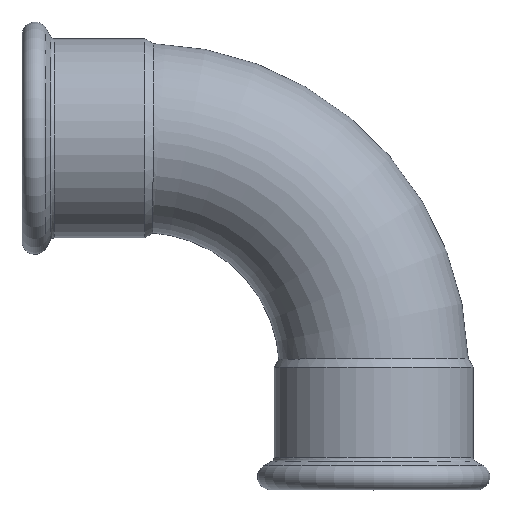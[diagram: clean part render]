
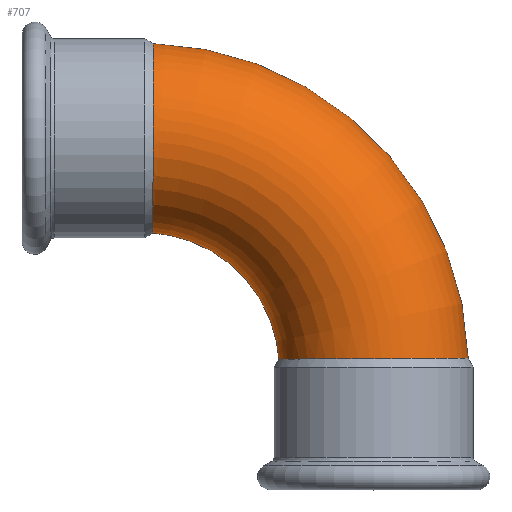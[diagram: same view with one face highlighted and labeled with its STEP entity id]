
A CAD part, top view. The second image highlights one B-rep face of the part: STEP entity #707.
In plain terms, the highlighted toroidal (fillet/blend) face has major radius 108 mm and minor radius 44.45 mm.
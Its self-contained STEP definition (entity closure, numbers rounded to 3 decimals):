
#612=CARTESIAN_POINT('',(0.,-108.0,0.));
#613=DIRECTION('',(0.0,0.0,1.0));
#614=DIRECTION('',(0.725,-0.688,0.0));
#615=AXIS2_PLACEMENT_3D('',#612,#613,#614);
#616=TOROIDAL_SURFACE('',#615,108.0,44.45);
#617=CARTESIAN_POINT('',(4.642,44.379,0.));
#618=VERTEX_POINT('',#617);
#619=CARTESIAN_POINT('',(4.642,44.379,0.));
#620=CARTESIAN_POINT('',(4.642,44.379,-5.765));
#621=CARTESIAN_POINT('',(4.64,43.258,-11.474));
#622=CARTESIAN_POINT('',(4.631,38.928,-22.067));
#623=CARTESIAN_POINT('',(4.624,35.793,-26.863));
#624=CARTESIAN_POINT('',(4.605,27.95,-34.949));
#625=CARTESIAN_POINT('',(4.593,23.339,-38.191));
#626=CARTESIAN_POINT('',(4.565,13.232,-42.764));
#627=CARTESIAN_POINT('',(4.548,7.838,-44.082));
#628=CARTESIAN_POINT('',(4.509,-3.135,-44.683));
#629=CARTESIAN_POINT('',(4.487,-8.619,-43.969));
#630=CARTESIAN_POINT('',(4.438,-19.165,-40.547));
#631=CARTESIAN_POINT('',(4.412,-24.121,-37.827));
#632=CARTESIAN_POINT('',(4.359,-32.976,-30.516));
#633=CARTESIAN_POINT('',(4.333,-36.724,-25.911));
#634=CARTESIAN_POINT('',(4.295,-41.719,-16.437));
#635=CARTESIAN_POINT('',(4.282,-43.261,-11.826));
#636=CARTESIAN_POINT('',(4.272,-44.484,-4.232));
#637=CARTESIAN_POINT('',(4.27,-44.665,-1.37));
#638=CARTESIAN_POINT('',(4.272,-44.463,4.65));
#639=CARTESIAN_POINT('',(4.276,-44.019,7.79));
#640=CARTESIAN_POINT('',(4.294,-41.802,16.576));
#641=CARTESIAN_POINT('',(4.315,-39.234,21.951));
#642=CARTESIAN_POINT('',(4.363,-32.327,31.148));
#643=CARTESIAN_POINT('',(4.389,-28.146,34.953));
#644=CARTESIAN_POINT('',(4.443,-18.347,40.961));
#645=CARTESIAN_POINT('',(4.469,-12.764,43.014));
#646=CARTESIAN_POINT('',(4.517,-1.136,44.824));
#647=CARTESIAN_POINT('',(4.538,4.794,44.57));
#648=CARTESIAN_POINT('',(4.574,16.215,41.769));
#649=CARTESIAN_POINT('',(4.588,21.593,39.25));
#650=CARTESIAN_POINT('',(4.613,31.059,32.264));
#651=CARTESIAN_POINT('',(4.622,35.054,27.864));
#652=CARTESIAN_POINT('',(4.633,40.11,19.414));
#653=CARTESIAN_POINT('',(4.636,41.681,15.755));
#654=CARTESIAN_POINT('',(4.641,43.83,8.051));
#655=CARTESIAN_POINT('',(4.642,44.379,4.035));
#656=CARTESIAN_POINT('',(4.642,44.379,0.));
#657=B_SPLINE_CURVE_WITH_KNOTS('',3,(#619,#620,#621,#622,#623,#624,#625,#626,#627,#628,#629,#630,#631,#632,#633,#634,#635,#636,#637,#638,#639,#640,#641,#642,#643,#644,#645,#646,#647,#648,#649,#650,#651,#652,#653,#654,#655,#656),.UNSPECIFIED.,.T.,.U.,(4,2,2,2,2,2,2,2,2,2,2,2,2,2,2,2,2,2,4),(0.0,1.729,3.433,5.109,6.761,8.406,10.087,11.851,13.3,14.158,15.107,16.876,18.557,20.324,22.088,23.852,25.617,26.806,28.017),.UNSPECIFIED.);
#658=EDGE_CURVE('',#618,#618,#657,.T.);
#659=ORIENTED_EDGE('',*,*,#658,.F.);
#660=EDGE_LOOP('',(#659));
#661=FACE_OUTER_BOUND('',#660,.T.);
#662=CARTESIAN_POINT('',(152.379,-103.358,0.));
#663=VERTEX_POINT('',#662);
#664=CARTESIAN_POINT('',(152.379,-103.358,0.));
#665=CARTESIAN_POINT('',(152.379,-103.358,5.765));
#666=CARTESIAN_POINT('',(151.258,-103.36,11.474));
#667=CARTESIAN_POINT('',(146.928,-103.369,22.067));
#668=CARTESIAN_POINT('',(143.793,-103.376,26.863));
#669=CARTESIAN_POINT('',(135.95,-103.395,34.949));
#670=CARTESIAN_POINT('',(131.339,-103.407,38.191));
#671=CARTESIAN_POINT('',(121.232,-103.435,42.764));
#672=CARTESIAN_POINT('',(115.838,-103.452,44.082));
#673=CARTESIAN_POINT('',(104.865,-103.491,44.683));
#674=CARTESIAN_POINT('',(99.381,-103.513,43.969));
#675=CARTESIAN_POINT('',(88.835,-103.562,40.547));
#676=CARTESIAN_POINT('',(83.879,-103.588,37.827));
#677=CARTESIAN_POINT('',(75.024,-103.641,30.516));
#678=CARTESIAN_POINT('',(71.276,-103.667,25.911));
#679=CARTESIAN_POINT('',(66.281,-103.705,16.437));
#680=CARTESIAN_POINT('',(64.739,-103.718,11.826));
#681=CARTESIAN_POINT('',(63.516,-103.728,4.232));
#682=CARTESIAN_POINT('',(63.335,-103.73,1.37));
#683=CARTESIAN_POINT('',(63.537,-103.728,-4.65));
#684=CARTESIAN_POINT('',(63.981,-103.724,-7.79));
#685=CARTESIAN_POINT('',(66.198,-103.706,-16.576));
#686=CARTESIAN_POINT('',(68.766,-103.685,-21.951));
#687=CARTESIAN_POINT('',(75.673,-103.637,-31.148));
#688=CARTESIAN_POINT('',(79.854,-103.611,-34.953));
#689=CARTESIAN_POINT('',(89.653,-103.557,-40.961));
#690=CARTESIAN_POINT('',(95.236,-103.531,-43.014));
#691=CARTESIAN_POINT('',(106.864,-103.483,-44.824));
#692=CARTESIAN_POINT('',(112.794,-103.462,-44.57));
#693=CARTESIAN_POINT('',(124.215,-103.426,-41.769));
#694=CARTESIAN_POINT('',(129.593,-103.412,-39.25));
#695=CARTESIAN_POINT('',(139.059,-103.387,-32.264));
#696=CARTESIAN_POINT('',(143.054,-103.378,-27.864));
#697=CARTESIAN_POINT('',(148.11,-103.367,-19.414));
#698=CARTESIAN_POINT('',(149.681,-103.364,-15.755));
#699=CARTESIAN_POINT('',(151.83,-103.359,-8.051));
#700=CARTESIAN_POINT('',(152.379,-103.358,-4.035));
#701=CARTESIAN_POINT('',(152.379,-103.358,0.));
#702=B_SPLINE_CURVE_WITH_KNOTS('',3,(#664,#665,#666,#667,#668,#669,#670,#671,#672,#673,#674,#675,#676,#677,#678,#679,#680,#681,#682,#683,#684,#685,#686,#687,#688,#689,#690,#691,#692,#693,#694,#695,#696,#697,#698,#699,#700,#701),.UNSPECIFIED.,.T.,.U.,(4,2,2,2,2,2,2,2,2,2,2,2,2,2,2,2,2,2,4),(0.0,1.729,3.433,5.109,6.761,8.406,10.087,11.851,13.3,14.158,15.107,16.876,18.557,20.324,22.088,23.852,25.617,26.806,28.017),.UNSPECIFIED.);
#703=EDGE_CURVE('',#663,#663,#702,.T.);
#704=ORIENTED_EDGE('',*,*,#703,.F.);
#705=EDGE_LOOP('',(#704));
#706=FACE_BOUND('',#705,.T.);
#707=ADVANCED_FACE('',(#661,#706),#616,.T.);
